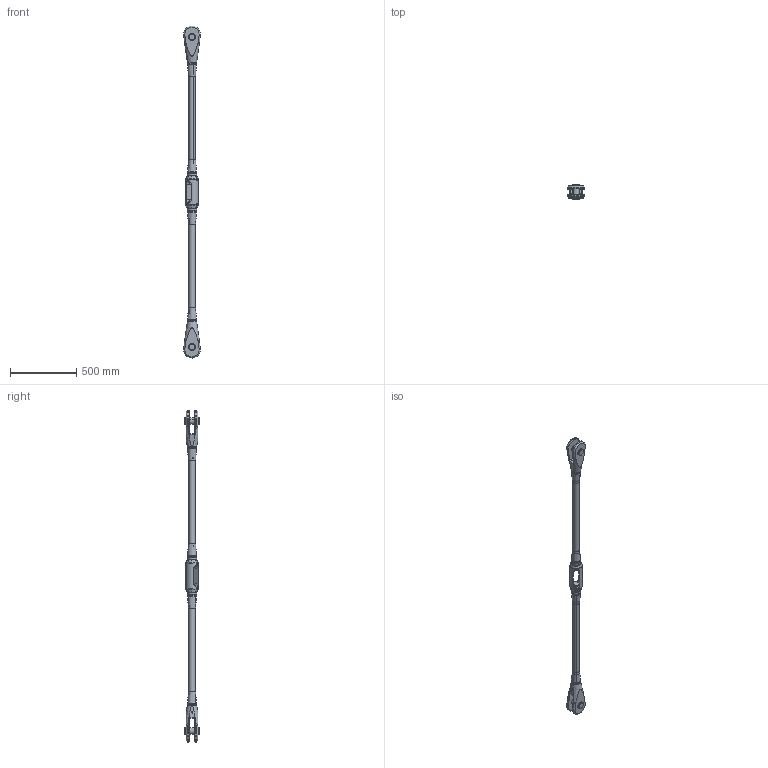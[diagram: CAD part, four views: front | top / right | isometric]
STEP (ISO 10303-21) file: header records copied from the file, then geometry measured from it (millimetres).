
FILE_DESCRIPTION (( 'STEP AP203' ), '1' );
FILE_NAME ('M48 G+AB+K.STEP', '2018-02-14T11:54:34', ( 'install' ), ( 'Hewlett-Packard Company' ), 'SwSTEP 2.0', 'SolidWorks 2017', '' );
FILE_SCHEMA (( 'CONFIG_CONTROL_DESIGN' ));
Length unit declared in the file: millimetre
Products named in the file (6): Zugstab_M48; Bolzen SicherungsringVarB_generisch_M48; M48 G+AB+K; Gabelkopf Kunde_M48; Abdeckhülse_generisch_M48; Kreuzmuffe_M48
Assembly tree (11 placements, depth 2):
  M48 G+AB+K
    Gabelkopf Kunde_M48  x2
    Abdeckhülse_generisch_M48  x4
    Kreuzmuffe_M48
    Zugstab_M48  x2
    Bolzen SicherungsringVarB_generisch_M48  x2
Bounding box: 126.93 x 112 x 2504.5 mm (x, y, z)
Volume: 7670202 mm3; surface area: 906108 mm2
Topology: 11 solids, 11 shells, 374 faces, 946 edges, 584 vertices
Faces by surface type: cylinder 204, plane 76, cone 54, torus 26, bspline 14
Entity records: 14760 total; most frequent: CARTESIAN_POINT 9345, ORIENTED_EDGE 1058, DIRECTION 906, EDGE_CURVE 529, AXIS2_PLACEMENT_3D 371, VERTEX_POINT 328, EDGE_LOOP 227, FACE_OUTER_BOUND 206
